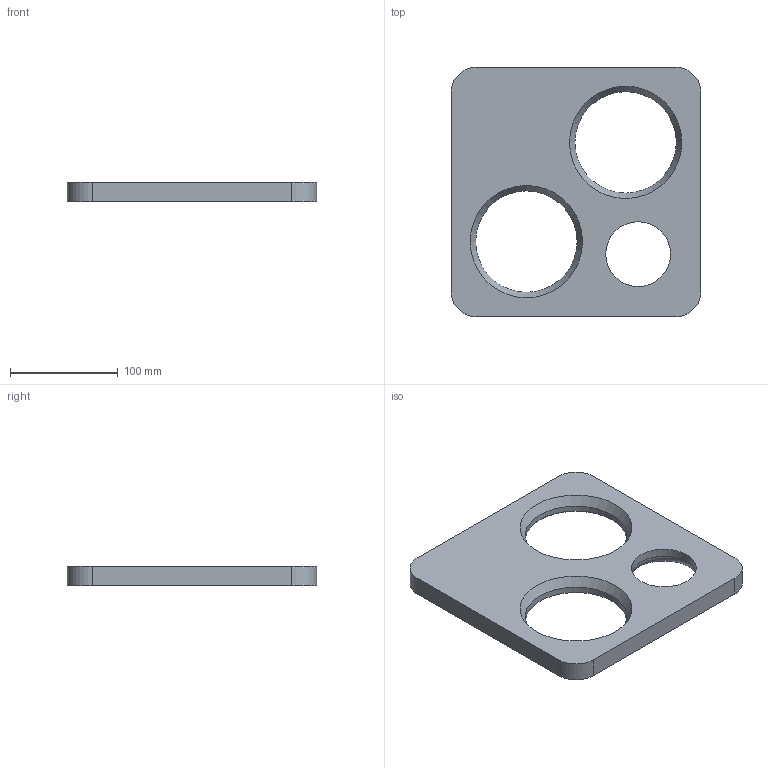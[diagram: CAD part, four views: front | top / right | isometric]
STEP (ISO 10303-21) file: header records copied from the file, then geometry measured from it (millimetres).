
FILE_DESCRIPTION(/* description */ ('STEP AP242 Edition 2','CAx-IF Rec.Pracs.---Representation and Presentation of Product Manufacturing Information (PMI)---4.0---2014-10-13','CAx-IF Rec.Pracs.---3D Tessellated Geometry---0.4---2014-09-14','2;1','CAx-IF Rec.Pracs.---User Defined Attributes---1.5---2016-08-15'),/* implementation_level */ '2;1');
FILE_NAME(/* name */ '693e1f0c3100820afeb07547',/* time_stamp */ '2025-12-14T02:21:01Z',/* author */ (''),/* organization */ (''),/* preprocessor_version */ 'ST-DEVELOPER v20',/* originating_system */ 'ONSHAPE BY PTC INC, 1.208',/* authorisation */ ' ');
FILE_SCHEMA (('AP242_MANAGED_MODEL_BASED_3D_ENGINEERING_MIM_LF { 1 0 10303 442 3 1 4 }'));
Length unit declared in the file: metre
Products named in the file (1): Speaker Base
Bounding box: 231 x 231 x 18 mm (x, y, z)
Volume: 608195.3 mm3; surface area: 101919.1 mm2
Topology: 1 solids, 1 shells, 47 faces, 87 edges, 56 vertices
Faces by surface type: cylinder 21, plane 20, torus 4, cone 2
Full cylindrical faces by diameter (mm): 5.7 x8, 6.5 x4, 60 x1, 94 x2, 116.2 x2
Entity records: 1100 total; most frequent: DIRECTION 208, CARTESIAN_POINT 168, ORIENTED_EDGE 128, AXIS2_PLACEMENT_3D 96, EDGE_LOOP 90, FACE_BOUND 90, EDGE_CURVE 64, VERTEX_POINT 56
